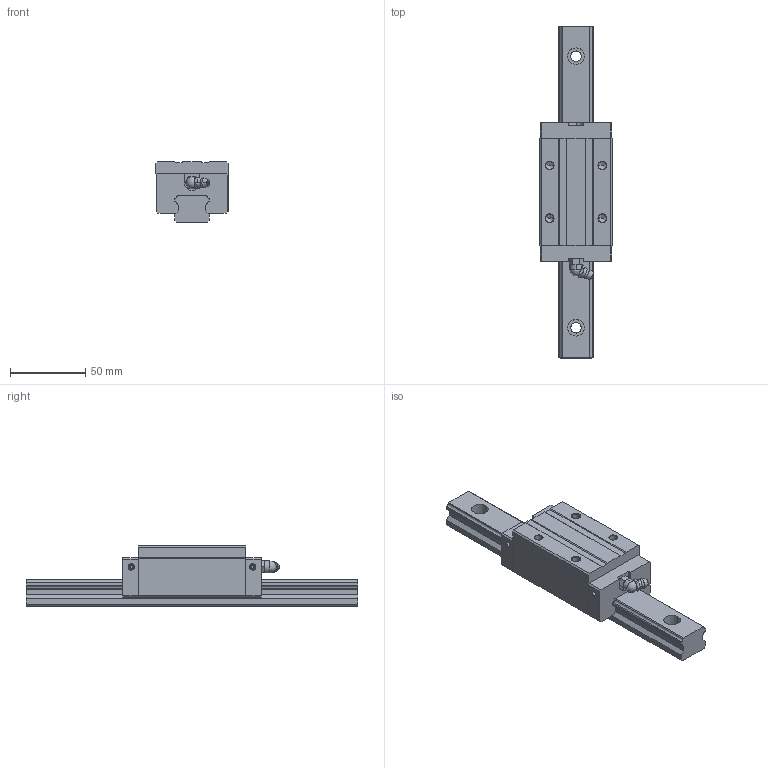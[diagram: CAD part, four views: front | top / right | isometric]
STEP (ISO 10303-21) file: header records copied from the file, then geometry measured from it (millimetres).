
FILE_DESCRIPTION((''),'1');
FILE_NAME(' ',' ',(''),(''),'ACIS Interop R16','Kubotek KeyCreator V6.5.2 (0407)',' ');
FILE_SCHEMA(('CONFIG_CONTROL_DESIGN'));
Length unit declared in the file: millimetre
Products named in the file (3): 1; 2; 3
Bounding box: 48 x 220 x 40 mm (x, y, z)
Volume: 118260.4 mm3; surface area: 40650.7 mm2
Topology: 2 solids, 48 shells, 216 faces, 691 edges, 531 vertices
Faces by surface type: plane 101, cylinder 74, cone 26, torus 10, sphere 3, bspline 2
Entity records: 7922 total; most frequent: CARTESIAN_POINT 1635, DIRECTION 1364, ORIENTED_EDGE 1102, EDGE_CURVE 681, VERTEX_POINT 531, AXIS2_PLACEMENT_3D 488, LINE 388, VECTOR 388
